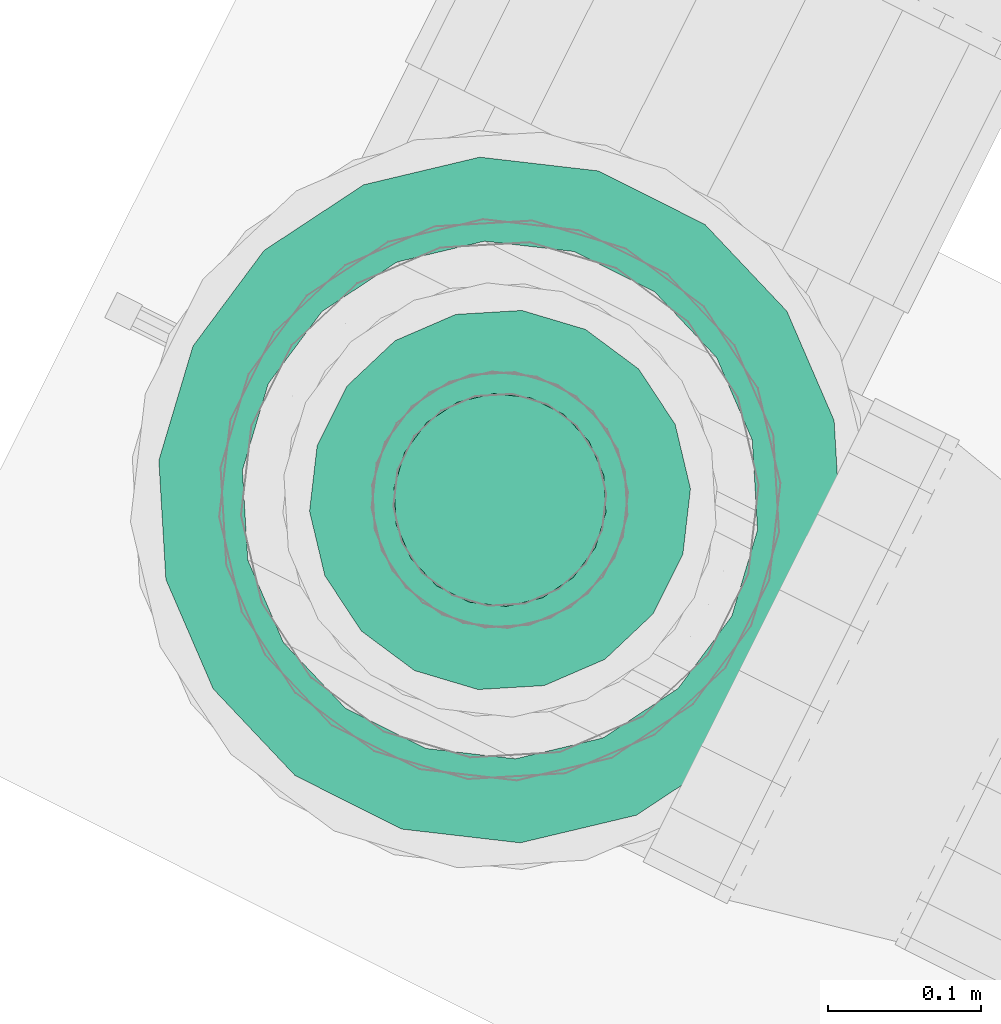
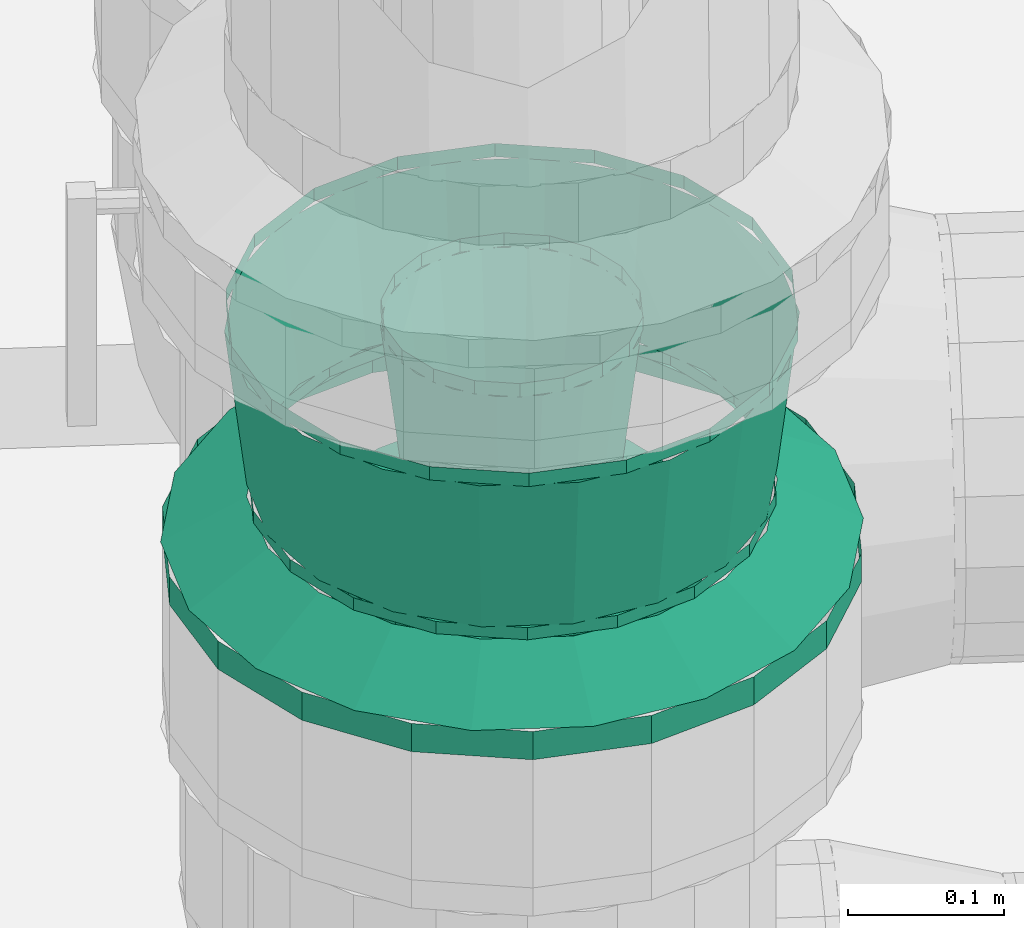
# One storey, part 99 of 152: 2 flow fittings.
"""IFC2X3 building model written with IfcOpenShell, lengths in metres."""

from ifc_helpers import new_model, si_unit, derived_unit, direction, frame, origin, place, context, subcontext, project, spatial, face_set, surface_model, source, transform, mapped, material, type_object, type_shapes, element, save


model = new_model("IFC2X3")

# Units and contexts
model_context = context("Model", 3, precision=5.2338327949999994e-05, world=origin(), true_north=direction((0.0, 1.0)))
body_context = subcontext(model_context, "Body", "Model", "MODEL_VIEW")
ifc_project = project(units=[si_unit("LENGTHUNIT", "METRE"), si_unit("AREAUNIT", "SQUARE_METRE"), si_unit("VOLUMEUNIT", "CUBIC_METRE"), si_unit("MASSUNIT", "GRAM", prefix="KILO"), si_unit("PLANEANGLEUNIT", "RADIAN"), derived_unit("THERMALTRANSMITTANCEUNIT", [(si_unit("MASSUNIT", "GRAM", prefix="KILO"), 1), (si_unit("THERMODYNAMICTEMPERATUREUNIT", "KELVIN"), -1), (si_unit("TIMEUNIT", "SECOND"), -3)])], contexts=[model_context])

# Site, building, storey
site_placement = place(None, frame((0.0, 0.0, 0.0), z_axis=(0.0, 0.0, 1.0), x_axis=(0.8939966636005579, -0.4480736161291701, 0.0)))
site = spatial("IfcSite", under=ifc_project, at=site_placement, Name="Default", CompositionType="ELEMENT")
building_placement = place(site_placement, origin())
building = spatial("IfcBuilding", under=site, at=building_placement, CompositionType="ELEMENT")
storey_placement = place(building_placement, frame((0.0, 0.0, 2.7499999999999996)))
storey = spatial("IfcBuildingStorey", under=building, at=storey_placement, Name="1. Obergeschoss", CompositionType="ELEMENT", Elevation=2.7499999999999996)

# Flow fittings
ifc_material = material(Name="IfcSurfaceStyle #9317")
distribution_element_type_1 = type_object("IfcDistributionElementType", Name="Flansch 237185:Flansch 237185", material=ifc_material)
shared_shape_1 = source(origin(), body_context, "Body", "SurfaceModel", [
    surface_model("IfcFaceBasedSurfaceModel", [(9.625770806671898, 5.73178762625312, 4.27507198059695), (9.668523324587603, 5.739326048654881, 4.27507198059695), (9.668523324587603, 5.739326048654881, 4.297071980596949), (9.625770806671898, 5.73178762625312, 4.297071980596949), (9.706119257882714, 5.761032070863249, 4.27507198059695), (9.706119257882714, 5.761032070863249, 4.297071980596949), (9.734023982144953, 5.79428762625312, 4.27507198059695), (9.734023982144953, 5.79428762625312, 4.297071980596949), (9.748871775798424, 5.835081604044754, 4.27507198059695), (9.748871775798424, 5.835081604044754, 4.297071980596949), (9.748871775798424, 5.878493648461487, 4.27507198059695), (9.748871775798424, 5.878493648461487, 4.297071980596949), (9.734023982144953, 5.919287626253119, 4.27507198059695), (9.734023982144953, 5.919287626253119, 4.297071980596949), (9.706119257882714, 5.952543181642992, 4.27507198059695), (9.706119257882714, 5.952543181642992, 4.297071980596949), (9.668523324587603, 5.974249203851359, 4.27507198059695), (9.668523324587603, 5.974249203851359, 4.297071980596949), (9.625770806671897, 5.981787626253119, 4.27507198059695), (9.625770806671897, 5.981787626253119, 4.297071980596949), (9.583018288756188, 5.974249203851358, 4.27507198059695), (9.583018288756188, 5.974249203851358, 4.297071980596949), (9.54542235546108, 5.952543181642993, 4.27507198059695), (9.54542235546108, 5.952543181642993, 4.297071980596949), (9.517517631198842, 5.919287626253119, 4.27507198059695), (9.517517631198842, 5.919287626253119, 4.297071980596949), (9.50266983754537, 5.878493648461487, 4.27507198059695), (9.50266983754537, 5.878493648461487, 4.297071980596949), (9.50266983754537, 5.835081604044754, 4.27507198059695), (9.50266983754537, 5.835081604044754, 4.297071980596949), (9.517517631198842, 5.79428762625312, 4.27507198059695), (9.517517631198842, 5.79428762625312, 4.297071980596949), (9.54542235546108, 5.76103207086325, 4.27507198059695), (9.54542235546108, 5.76103207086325, 4.297071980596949), (9.583018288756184, 5.73932604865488, 4.27507198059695), (9.583018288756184, 5.73932604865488, 4.297071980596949), (9.625770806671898, 5.856787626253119, 4.297071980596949), (9.703770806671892, 5.856787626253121, 4.297071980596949), (9.699066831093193, 5.883465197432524, 4.297071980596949), (9.69140833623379, 5.8806777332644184, 4.33007198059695), (9.695620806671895, 5.856787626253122, 4.33007198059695), (9.685522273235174, 5.90692505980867, 4.297071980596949), (9.679279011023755, 5.901686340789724, 4.33007198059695), (9.664770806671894, 5.924337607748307, 4.297071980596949), (9.660695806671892, 5.917279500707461, 4.33007198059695), (9.639315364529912, 5.933602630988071, 4.297071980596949), (9.637900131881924, 5.92557644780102, 4.330071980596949), (9.612226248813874, 5.93360263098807, 4.297071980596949), (9.613641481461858, 5.92557644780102, 4.33007198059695), (9.586770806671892, 5.924337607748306, 4.297071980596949), (9.590845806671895, 5.917279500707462, 4.33007198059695), (9.56601934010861, 5.906925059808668, 4.297071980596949), (9.572262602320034, 5.9016863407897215, 4.33007198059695), (9.552474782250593, 5.883465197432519, 4.297071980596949), (9.56013327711, 5.880677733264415, 4.33007198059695), (9.547770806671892, 5.856787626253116, 4.297071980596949), (9.555920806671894, 5.856787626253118, 4.33007198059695), (9.552474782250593, 5.830110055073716, 4.297071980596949), (9.560133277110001, 5.83289751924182, 4.33007198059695), (9.566019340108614, 5.806650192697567, 4.297071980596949), (9.572262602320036, 5.811888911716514, 4.33007198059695), (9.586770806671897, 5.789237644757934, 4.297071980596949), (9.590845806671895, 5.796295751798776, 4.33007198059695), (9.612226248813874, 5.779972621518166, 4.297071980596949), (9.613641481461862, 5.787998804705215, 4.33007198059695), (9.639315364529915, 5.779972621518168, 4.297071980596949), (9.63790013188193, 5.787998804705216, 4.33007198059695), (9.664770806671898, 5.789237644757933, 4.297071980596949), (9.660695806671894, 5.796295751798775, 4.33007198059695), (9.685522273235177, 5.806650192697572, 4.297071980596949), (9.679279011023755, 5.8118889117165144, 4.33007198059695), (9.699066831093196, 5.83011005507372, 4.297071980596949), (9.691408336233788, 5.832897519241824, 4.33007198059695), (9.625770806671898, 5.631787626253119, 4.27507198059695), (9.702725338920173, 5.645356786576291, 4.27507198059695), (9.702725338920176, 5.645356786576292, 4.297071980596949), (9.6257708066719, 5.63178762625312, 4.297071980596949), (9.770398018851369, 5.68442762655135, 4.27507198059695), (9.77039801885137, 5.684427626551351, 4.297071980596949), (9.8206265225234, 5.744287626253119, 4.27507198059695), (9.820626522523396, 5.744287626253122, 4.297071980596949), (9.847352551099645, 5.81771678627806, 4.27507198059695), (9.84735255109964, 5.817716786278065, 4.297071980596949), (9.847352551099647, 5.895858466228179, 4.27507198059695), (9.847352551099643, 5.895858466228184, 4.297071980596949), (9.820626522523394, 5.969287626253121, 4.27507198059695), (9.82062652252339, 5.969287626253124, 4.297071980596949), (9.770398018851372, 6.029147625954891, 4.27507198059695), (9.770398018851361, 6.029147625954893, 4.297071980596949), (9.702725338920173, 6.06821846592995, 4.27507198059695), (9.702725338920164, 6.0682184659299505, 4.297071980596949), (9.625770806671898, 6.081787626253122, 4.27507198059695), (9.625770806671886, 6.08178762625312, 4.297071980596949), (9.548816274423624, 6.0682184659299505, 4.27507198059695), (9.548816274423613, 6.068218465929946, 4.297071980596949), (9.481143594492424, 6.029147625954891, 4.27507198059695), (9.481143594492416, 6.029147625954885, 4.297071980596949), (9.430915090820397, 5.969287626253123, 4.27507198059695), (9.430915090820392, 5.969287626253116, 4.297071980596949), (9.404189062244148, 5.895858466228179, 4.27507198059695), (9.404189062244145, 5.895858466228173, 4.297071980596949), (9.404189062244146, 5.817716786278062, 4.27507198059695), (9.404189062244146, 5.817716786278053, 4.297071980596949), (9.430915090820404, 5.744287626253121, 4.27507198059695), (9.430915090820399, 5.744287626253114, 4.297071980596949), (9.481143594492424, 5.68442762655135, 4.27507198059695), (9.481143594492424, 5.684427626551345, 4.297071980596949), (9.548816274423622, 5.645356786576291, 4.27507198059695), (9.548816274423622, 5.645356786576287, 4.297071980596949), (9.850770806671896, 5.856787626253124, 4.297071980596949), (9.837201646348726, 5.9337421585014, 4.297071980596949), (9.785377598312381, 5.914879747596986, 4.330071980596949), (9.795620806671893, 5.856787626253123, 4.33007198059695), (9.79813080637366, 6.001414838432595, 4.297071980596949), (9.75588345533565, 5.965965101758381, 4.330071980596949), (9.738270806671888, 6.051643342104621, 4.297071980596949), (9.710695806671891, 6.003882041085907, 4.33007198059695), (9.664841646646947, 6.078369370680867, 4.297071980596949), (9.65526494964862, 6.024057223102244, 4.330071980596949), (9.58669996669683, 6.078369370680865, 4.29707198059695), (9.596276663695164, 6.02405722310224, 4.33007198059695), (9.513270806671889, 6.051643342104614, 4.297071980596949), (9.540845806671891, 6.0038820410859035, 4.330071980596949), (9.453410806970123, 6.001414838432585, 4.297071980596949), (9.495658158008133, 5.965965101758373, 4.330071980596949), (9.414339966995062, 5.933742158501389, 4.29707198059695), (9.46616401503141, 5.914879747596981, 4.33007198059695), (9.400770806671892, 5.856787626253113, 4.297071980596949), (9.455920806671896, 5.856787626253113, 4.330071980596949), (9.414339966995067, 5.779833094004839, 4.297071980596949), (9.466164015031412, 5.798695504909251, 4.33007198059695), (9.45341080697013, 5.712160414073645, 4.297071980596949), (9.495658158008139, 5.747610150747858, 4.330071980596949), (9.5132708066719, 5.661931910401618, 4.29707198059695), (9.540845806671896, 5.709693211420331, 4.33007198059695), (9.586699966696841, 5.63520588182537, 4.297071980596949), (9.59627666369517, 5.689518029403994, 4.330071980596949), (9.664841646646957, 5.635205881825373, 4.297071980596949), (9.655264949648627, 5.689518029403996, 4.330071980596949), (9.738270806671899, 5.6619319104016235, 4.297071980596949), (9.710695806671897, 5.709693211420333, 4.33007198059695), (9.798130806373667, 5.712160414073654, 4.297071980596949), (9.755883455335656, 5.747610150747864, 4.330071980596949), (9.837201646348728, 5.779833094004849, 4.297071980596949), (9.785377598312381, 5.79869550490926, 4.330071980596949)], [face_set([[[0, 1, 2, 3]], [[1, 4, 5, 2]], [[4, 6, 7, 5]], [[6, 8, 9, 7]], [[8, 10, 11, 9]], [[10, 12, 13, 11]], [[12, 14, 15, 13]], [[14, 16, 17, 15]], [[16, 18, 19, 17]], [[18, 20, 21, 19]], [[20, 22, 23, 21]], [[22, 24, 25, 23]], [[24, 26, 27, 25]], [[26, 28, 29, 27]], [[28, 30, 31, 29]], [[30, 32, 33, 31]], [[32, 34, 35, 33]], [[34, 0, 3, 35]], [[36, 35, 3]], [[36, 33, 35]], [[36, 31, 33]], [[36, 29, 31]], [[36, 27, 29]], [[36, 25, 27]], [[36, 23, 25]], [[36, 21, 23]], [[36, 19, 21]], [[36, 17, 19]], [[36, 15, 17]], [[36, 13, 15]], [[36, 11, 13]], [[36, 9, 11]], [[36, 7, 9]], [[36, 5, 7]], [[36, 2, 5]], [[36, 3, 2]], [[37, 38, 39, 40]], [[38, 41, 42, 39]], [[41, 43, 44, 42]], [[43, 45, 46, 44]], [[45, 47, 48, 46]], [[47, 49, 50, 48]], [[49, 51, 52, 50]], [[51, 53, 54, 52]], [[53, 55, 56, 54]], [[55, 57, 58, 56]], [[57, 59, 60, 58]], [[59, 61, 62, 60]], [[61, 63, 64, 62]], [[63, 65, 66, 64]], [[65, 67, 68, 66]], [[67, 69, 70, 68]], [[69, 71, 72, 70]], [[71, 37, 40, 72]], [[73, 74, 75, 76]], [[74, 77, 78, 75]], [[77, 79, 80, 78]], [[79, 81, 82, 80]], [[81, 83, 84, 82]], [[83, 85, 86, 84]], [[85, 87, 88, 86]], [[87, 89, 90, 88]], [[89, 91, 92, 90]], [[91, 93, 94, 92]], [[93, 95, 96, 94]], [[95, 97, 98, 96]], [[97, 99, 100, 98]], [[99, 101, 102, 100]], [[101, 103, 104, 102]], [[103, 105, 106, 104]], [[105, 107, 108, 106]], [[107, 73, 76, 108]], [[109, 110, 111, 112]], [[110, 113, 114, 111]], [[113, 115, 116, 114]], [[115, 117, 118, 116]], [[117, 119, 120, 118]], [[119, 121, 122, 120]], [[121, 123, 124, 122]], [[123, 125, 126, 124]], [[125, 127, 128, 126]], [[127, 129, 130, 128]], [[129, 131, 132, 130]], [[131, 133, 134, 132]], [[133, 135, 136, 134]], [[135, 137, 138, 136]], [[137, 139, 140, 138]], [[139, 141, 142, 140]], [[141, 143, 144, 142]], [[143, 109, 112, 144]]])]),
])
type_shapes(distribution_element_type_1, [shared_shape_1])
flow_fitting_1_placement = place(storey_placement, frame((0.0, 0.0, -2.7499999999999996)))
element("IfcFlowFitting", 1, at=flow_fitting_1_placement, inside=storey, type_object=distribution_element_type_1, material=ifc_material, Name="Flansch", ObjectType="Flansch", context=body_context, shape_type="MappedRepresentation", body=[
    mapped(shared_shape_1, transform((0.0, 0.0, 0.0), scale=1.0)),
])
distribution_element_type_2 = type_object("IfcDistributionElementType", Name="Übergangsstück 237208:Übergangsstück 237208", material=ifc_material)
shared_shape_2 = source(origin(), body_context, "Body", "SurfaceModel", [
    surface_model("IfcFaceBasedSurfaceModel", [(9.625770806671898, 5.926637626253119, 4.3300719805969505), (9.601880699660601, 5.922425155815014, 4.3300719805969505), (9.601880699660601, 5.922425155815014, 4.3396011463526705), (9.625770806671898, 5.926637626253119, 4.3396011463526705), (9.580872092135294, 5.910295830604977, 4.3300719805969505), (9.580872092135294, 5.910295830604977, 4.3396011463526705), (9.565278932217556, 5.891712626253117, 4.3300719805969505), (9.565278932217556, 5.891712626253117, 4.3396011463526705), (9.556981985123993, 5.868916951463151, 4.3300719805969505), (9.556981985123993, 5.868916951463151, 4.3396011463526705), (9.556981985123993, 5.844658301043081, 4.3300719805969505), (9.556981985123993, 5.844658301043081, 4.3396011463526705), (9.565278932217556, 5.821862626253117, 4.3300719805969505), (9.565278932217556, 5.821862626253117, 4.3396011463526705), (9.580872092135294, 5.803279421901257, 4.3300719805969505), (9.580872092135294, 5.803279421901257, 4.3396011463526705), (9.601880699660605, 5.791150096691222, 4.3300719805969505), (9.601880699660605, 5.791150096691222, 4.3396011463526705), (9.625770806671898, 5.786937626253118, 4.3300719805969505), (9.625770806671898, 5.786937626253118, 4.3396011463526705), (9.649660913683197, 5.791150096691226, 4.33007198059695), (9.6496609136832, 5.791150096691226, 4.3396011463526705), (9.670669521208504, 5.803279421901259, 4.3300719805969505), (9.670669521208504, 5.80327942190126, 4.3396011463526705), (9.68626268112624, 5.821862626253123, 4.3300719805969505), (9.68626268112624, 5.821862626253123, 4.3396011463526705), (9.694559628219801, 5.844658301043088, 4.3300719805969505), (9.694559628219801, 5.844658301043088, 4.3396011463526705), (9.694559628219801, 5.8689169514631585, 4.3300719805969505), (9.694559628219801, 5.8689169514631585, 4.3396011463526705), (9.686262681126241, 5.891712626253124, 4.3300719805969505), (9.686262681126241, 5.891712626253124, 4.3396011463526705), (9.670669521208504, 5.910295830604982, 4.3300719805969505), (9.670669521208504, 5.910295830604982, 4.3396011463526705), (9.649660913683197, 5.922425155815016, 4.3300719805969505), (9.649660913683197, 5.922425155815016, 4.3396011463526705), (9.5559208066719, 5.8567876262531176, 4.3396011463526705), (9.560133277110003, 5.832897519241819, 4.3396011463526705), (9.546695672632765, 5.828006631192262, 4.459612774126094), (9.541620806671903, 5.856787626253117, 4.459612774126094), (9.57226260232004, 5.811888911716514, 4.3396011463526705), (9.561308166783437, 5.802697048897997, 4.459612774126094), (9.590845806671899, 5.796295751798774, 4.3396011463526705), (9.583695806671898, 5.783911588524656, 4.459612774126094), (9.613641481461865, 5.787998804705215, 4.3396011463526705), (9.611158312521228, 5.773916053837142, 4.459612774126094), (9.637900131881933, 5.787998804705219, 4.3396011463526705), (9.640383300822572, 5.773916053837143, 4.459612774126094), (9.6606958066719, 5.796295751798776, 4.3396011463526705), (9.667845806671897, 5.783911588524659, 4.459612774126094), (9.67927901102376, 5.811888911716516, 4.3396011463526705), (9.69023344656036, 5.802697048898, 4.459612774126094), (9.691408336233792, 5.832897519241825, 4.3396011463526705), (9.704845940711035, 5.828006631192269, 4.459612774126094), (9.695620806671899, 5.856787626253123, 4.3396011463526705), (9.709920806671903, 5.856787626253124, 4.459612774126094), (9.691408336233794, 5.880677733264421, 4.3396011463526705), (9.704845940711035, 5.885568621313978, 4.459612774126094), (9.67927901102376, 5.901686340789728, 4.3396011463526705), (9.690233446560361, 5.910878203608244, 4.459612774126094), (9.660695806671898, 5.917279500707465, 4.3396011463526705), (9.667845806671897, 5.929663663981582, 4.459612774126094), (9.637900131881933, 5.925576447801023, 4.3396011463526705), (9.64038330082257, 5.939659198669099, 4.459612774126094), (9.613641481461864, 5.925576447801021, 4.3396011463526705), (9.611158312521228, 5.939659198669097, 4.459612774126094), (9.590845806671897, 5.917279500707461, 4.3396011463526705), (9.5836958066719, 5.929663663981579, 4.459612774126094), (9.57226260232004, 5.901686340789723, 4.3396011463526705), (9.561308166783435, 5.910878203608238, 4.459612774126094), (9.560133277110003, 5.880677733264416, 4.3396011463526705), (9.546695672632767, 5.885568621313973, 4.459612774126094), (9.6257708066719, 5.94093762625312, 4.459612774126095), (9.596989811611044, 5.935862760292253, 4.459612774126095), (9.596989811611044, 5.935862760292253, 4.47007198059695), (9.6257708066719, 5.94093762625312, 4.47007198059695), (9.571680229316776, 5.921250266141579, 4.459612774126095), (9.571680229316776, 5.921250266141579, 4.47007198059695), (9.55289476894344, 5.898862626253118, 4.459612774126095), (9.55289476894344, 5.898862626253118, 4.47007198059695), (9.542899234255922, 5.871400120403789, 4.459612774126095), (9.542899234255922, 5.871400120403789, 4.47007198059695), (9.542899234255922, 5.842175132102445, 4.459612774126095), (9.542899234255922, 5.842175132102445, 4.47007198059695), (9.55289476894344, 5.814712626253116, 4.459612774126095), (9.55289476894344, 5.814712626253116, 4.47007198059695), (9.571680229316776, 5.7923249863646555, 4.459612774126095), (9.571680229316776, 5.7923249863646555, 4.47007198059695), (9.596989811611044, 5.777712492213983, 4.459612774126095), (9.596989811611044, 5.777712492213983, 4.47007198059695), (9.625770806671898, 5.772637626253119, 4.459612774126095), (9.625770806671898, 5.772637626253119, 4.47007198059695), (9.654551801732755, 5.777712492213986, 4.459612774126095), (9.654551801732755, 5.777712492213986, 4.47007198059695), (9.67986138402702, 5.792324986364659, 4.459612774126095), (9.67986138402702, 5.792324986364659, 4.47007198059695), (9.69864684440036, 5.8147126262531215, 4.459612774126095), (9.69864684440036, 5.8147126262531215, 4.47007198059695), (9.708642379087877, 5.842175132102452, 4.459612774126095), (9.708642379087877, 5.842175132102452, 4.47007198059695), (9.708642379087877, 5.871400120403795, 4.459612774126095), (9.708642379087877, 5.871400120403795, 4.47007198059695), (9.69864684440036, 5.898862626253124, 4.459612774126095), (9.69864684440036, 5.898862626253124, 4.47007198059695), (9.67986138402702, 5.921250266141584, 4.459612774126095), (9.67986138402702, 5.921250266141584, 4.47007198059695), (9.654551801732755, 5.935862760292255, 4.459612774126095), (9.654551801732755, 5.935862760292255, 4.47007198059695), (9.625770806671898, 6.026637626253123, 4.3300719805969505), (9.567678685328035, 6.016394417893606, 4.3300719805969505), (9.567678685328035, 6.016394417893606, 4.3396011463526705), (9.625770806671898, 6.026637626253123, 4.3396011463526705), (9.516593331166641, 5.9869002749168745, 4.3300719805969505), (9.516593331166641, 5.9869002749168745, 4.3396011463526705), (9.478676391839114, 5.941712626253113, 4.3300719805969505), (9.478676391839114, 5.941712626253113, 4.3396011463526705), (9.458501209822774, 5.886281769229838, 4.3300719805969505), (9.458501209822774, 5.886281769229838, 4.3396011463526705), (9.458501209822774, 5.827293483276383, 4.3300719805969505), (9.458501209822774, 5.827293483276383, 4.3396011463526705), (9.478676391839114, 5.771862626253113, 4.3300719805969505), (9.478676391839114, 5.771862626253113, 4.3396011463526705), (9.516593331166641, 5.726674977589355, 4.3300719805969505), (9.516593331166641, 5.726674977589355, 4.3396011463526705), (9.567678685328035, 5.69718083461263, 4.3300719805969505), (9.567678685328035, 5.69718083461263, 4.3396011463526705), (9.625770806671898, 5.686937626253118, 4.3300719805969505), (9.625770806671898, 5.686937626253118, 4.3396011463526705), (9.683862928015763, 5.697180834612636, 4.3300719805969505), (9.683862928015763, 5.697180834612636, 4.3396011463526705), (9.73494828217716, 5.726674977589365, 4.3300719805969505), (9.73494828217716, 5.726674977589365, 4.3396011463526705), (9.772865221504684, 5.7718626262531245, 4.3300719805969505), (9.772865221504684, 5.7718626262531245, 4.3396011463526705), (9.79304040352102, 5.8272934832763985, 4.3300719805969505), (9.79304040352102, 5.8272934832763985, 4.3396011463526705), (9.793040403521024, 5.886281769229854, 4.3300719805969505), (9.793040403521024, 5.886281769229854, 4.3396011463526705), (9.772865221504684, 5.941712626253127, 4.3300719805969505), (9.772865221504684, 5.941712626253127, 4.3396011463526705), (9.734948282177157, 5.986900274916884, 4.3300719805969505), (9.734948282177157, 5.986900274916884, 4.3396011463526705), (9.683862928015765, 6.01639441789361, 4.3300719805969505), (9.683862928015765, 6.01639441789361, 4.3396011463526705), (9.4559208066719, 5.856787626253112, 4.3396011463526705), (9.466164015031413, 5.798695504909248, 4.3396011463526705), (9.452726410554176, 5.793804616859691, 4.459612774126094), (9.4416208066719, 5.856787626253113, 4.459612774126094), (9.495658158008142, 5.747610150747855, 4.3396011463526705), (9.48470372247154, 5.738418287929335, 4.459612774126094), (9.540845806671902, 5.709693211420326, 4.3396011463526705), (9.5336958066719, 5.69730904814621, 4.459612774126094), (9.596276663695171, 5.689518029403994, 4.3396011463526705), (9.593793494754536, 5.67543527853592, 4.459612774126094), (9.655264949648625, 5.689518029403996, 4.3396011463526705), (9.657748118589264, 5.675435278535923, 4.459612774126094), (9.710695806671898, 5.709693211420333, 4.3396011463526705), (9.717845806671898, 5.697309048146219, 4.459612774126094), (9.755883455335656, 5.747610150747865, 4.3396011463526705), (9.766837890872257, 5.738418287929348, 4.459612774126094), (9.785377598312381, 5.798695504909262, 4.3396011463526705), (9.798815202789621, 5.793804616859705, 4.459612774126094), (9.795620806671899, 5.856787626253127, 4.3396011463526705), (9.809920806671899, 5.856787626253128, 4.459612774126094), (9.785377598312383, 5.914879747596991, 4.3396011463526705), (9.798815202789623, 5.919770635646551, 4.459612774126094), (9.755883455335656, 5.9659651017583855, 4.3396011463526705), (9.766837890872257, 5.975156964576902, 4.459612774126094), (9.710695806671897, 6.003882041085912, 4.3396011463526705), (9.717845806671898, 6.016266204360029, 4.459612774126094), (9.655264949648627, 6.024057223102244, 4.3396011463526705), (9.657748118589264, 6.0381399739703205, 4.459612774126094), (9.596276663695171, 6.024057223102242, 4.3396011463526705), (9.593793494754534, 6.038139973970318, 4.459612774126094), (9.540845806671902, 6.003882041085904, 4.3396011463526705), (9.533695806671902, 6.016266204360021, 4.459612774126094), (9.495658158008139, 5.965965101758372, 4.3396011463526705), (9.48470372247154, 5.97515696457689, 4.459612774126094), (9.466164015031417, 5.914879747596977, 4.3396011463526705), (9.452726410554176, 5.919770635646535, 4.459612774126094), (9.625770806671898, 6.04093762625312, 4.459612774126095), (9.562787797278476, 6.029832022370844, 4.459612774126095), (9.562787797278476, 6.029832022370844, 4.47007198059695), (9.625770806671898, 6.04093762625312, 4.47007198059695), (9.507401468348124, 5.997854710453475, 4.459612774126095), (9.507401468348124, 5.997854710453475, 4.47007198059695), (9.466292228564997, 5.948862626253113, 4.459612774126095), (9.466292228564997, 5.948862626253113, 4.47007198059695), (9.444418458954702, 5.888764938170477, 4.459612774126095), (9.444418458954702, 5.888764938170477, 4.47007198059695), (9.444418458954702, 5.824810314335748, 4.459612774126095), (9.444418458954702, 5.824810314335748, 4.47007198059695), (9.466292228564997, 5.764712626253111, 4.459612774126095), (9.466292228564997, 5.764712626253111, 4.47007198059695), (9.507401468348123, 5.715720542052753, 4.459612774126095), (9.507401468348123, 5.715720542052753, 4.47007198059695), (9.562787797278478, 5.683743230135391, 4.459612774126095), (9.562787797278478, 5.683743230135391, 4.47007198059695), (9.625770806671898, 5.67263762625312, 4.459612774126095), (9.625770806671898, 5.67263762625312, 4.47007198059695), (9.688753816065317, 5.683743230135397, 4.459612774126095), (9.688753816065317, 5.683743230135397, 4.47007198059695), (9.744140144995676, 5.715720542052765, 4.459612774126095), (9.744140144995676, 5.715720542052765, 4.47007198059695), (9.785249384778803, 5.764712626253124, 4.459612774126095), (9.785249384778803, 5.764712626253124, 4.47007198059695), (9.807123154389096, 5.824810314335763, 4.459612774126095), (9.807123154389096, 5.824810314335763, 4.47007198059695), (9.807123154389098, 5.8887649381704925, 4.459612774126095), (9.807123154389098, 5.8887649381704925, 4.47007198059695), (9.785249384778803, 5.948862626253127, 4.459612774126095), (9.785249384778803, 5.948862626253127, 4.47007198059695), (9.744140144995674, 5.997854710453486, 4.459612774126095), (9.744140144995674, 5.997854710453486, 4.47007198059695), (9.688753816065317, 6.02983202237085, 4.459612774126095), (9.688753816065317, 6.02983202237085, 4.47007198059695)], [face_set([[[0, 1, 2, 3]], [[1, 4, 5, 2]], [[4, 6, 7, 5]], [[6, 8, 9, 7]], [[8, 10, 11, 9]], [[10, 12, 13, 11]], [[12, 14, 15, 13]], [[14, 16, 17, 15]], [[16, 18, 19, 17]], [[18, 20, 21, 19]], [[20, 22, 23, 21]], [[22, 24, 25, 23]], [[24, 26, 27, 25]], [[26, 28, 29, 27]], [[28, 30, 31, 29]], [[30, 32, 33, 31]], [[32, 34, 35, 33]], [[34, 0, 3, 35]], [[36, 37, 38, 39]], [[37, 40, 41, 38]], [[40, 42, 43, 41]], [[42, 44, 45, 43]], [[44, 46, 47, 45]], [[46, 48, 49, 47]], [[48, 50, 51, 49]], [[50, 52, 53, 51]], [[52, 54, 55, 53]], [[54, 56, 57, 55]], [[56, 58, 59, 57]], [[58, 60, 61, 59]], [[60, 62, 63, 61]], [[62, 64, 65, 63]], [[64, 66, 67, 65]], [[66, 68, 69, 67]], [[68, 70, 71, 69]], [[70, 36, 39, 71]], [[72, 73, 74, 75]], [[73, 76, 77, 74]], [[76, 78, 79, 77]], [[78, 80, 81, 79]], [[80, 82, 83, 81]], [[82, 84, 85, 83]], [[84, 86, 87, 85]], [[86, 88, 89, 87]], [[88, 90, 91, 89]], [[90, 92, 93, 91]], [[92, 94, 95, 93]], [[94, 96, 97, 95]], [[96, 98, 99, 97]], [[98, 100, 101, 99]], [[100, 102, 103, 101]], [[102, 104, 105, 103]], [[104, 106, 107, 105]], [[106, 72, 75, 107]], [[108, 109, 110, 111]], [[109, 112, 113, 110]], [[112, 114, 115, 113]], [[114, 116, 117, 115]], [[116, 118, 119, 117]], [[118, 120, 121, 119]], [[120, 122, 123, 121]], [[122, 124, 125, 123]], [[124, 126, 127, 125]], [[126, 128, 129, 127]], [[128, 130, 131, 129]], [[130, 132, 133, 131]], [[132, 134, 135, 133]], [[134, 136, 137, 135]], [[136, 138, 139, 137]], [[138, 140, 141, 139]], [[140, 142, 143, 141]], [[142, 108, 111, 143]], [[144, 145, 146, 147]], [[145, 148, 149, 146]], [[148, 150, 151, 149]], [[150, 152, 153, 151]], [[152, 154, 155, 153]], [[154, 156, 157, 155]], [[156, 158, 159, 157]], [[158, 160, 161, 159]], [[160, 162, 163, 161]], [[162, 164, 165, 163]], [[164, 166, 167, 165]], [[166, 168, 169, 167]], [[168, 170, 171, 169]], [[170, 172, 173, 171]], [[172, 174, 175, 173]], [[174, 176, 177, 175]], [[176, 178, 179, 177]], [[178, 144, 147, 179]], [[180, 181, 182, 183]], [[181, 184, 185, 182]], [[184, 186, 187, 185]], [[186, 188, 189, 187]], [[188, 190, 191, 189]], [[190, 192, 193, 191]], [[192, 194, 195, 193]], [[194, 196, 197, 195]], [[196, 198, 199, 197]], [[198, 200, 201, 199]], [[200, 202, 203, 201]], [[202, 204, 205, 203]], [[204, 206, 207, 205]], [[206, 208, 209, 207]], [[208, 210, 211, 209]], [[210, 212, 213, 211]], [[212, 214, 215, 213]], [[214, 180, 183, 215]]])]),
])
type_shapes(distribution_element_type_2, [shared_shape_2])
flow_fitting_2_placement = place(storey_placement, frame((0.0, 0.0, -2.7499999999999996)))
element("IfcFlowFitting", 2, at=flow_fitting_2_placement, inside=storey, type_object=distribution_element_type_2, material=ifc_material, Name="Übergangsstück", ObjectType="Übergangsstück", context=body_context, shape_type="MappedRepresentation", body=[
    mapped(shared_shape_2, transform((0.0, 0.0, 0.0), scale=1.0)),
])

save(model, "model.ifc")
